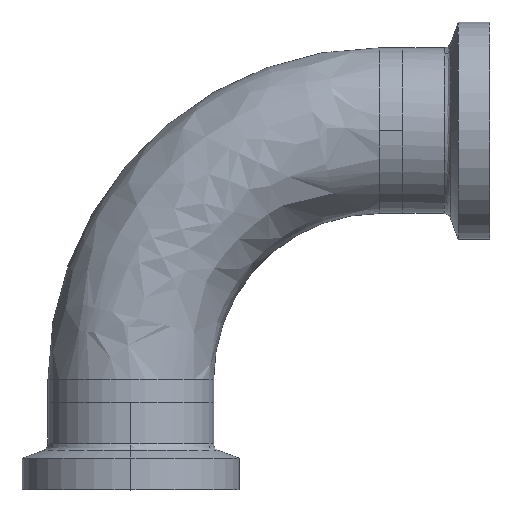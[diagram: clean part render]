
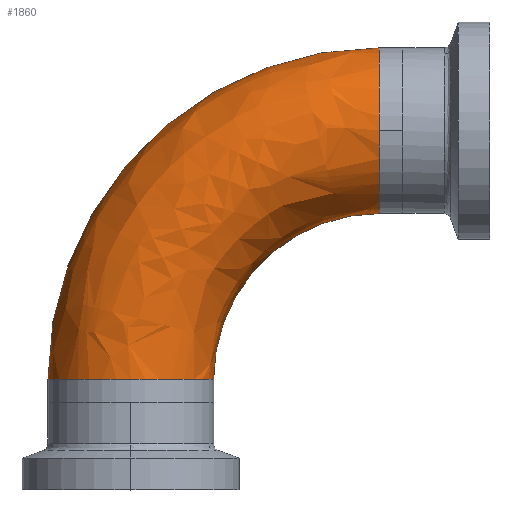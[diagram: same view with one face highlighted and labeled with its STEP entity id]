
A CAD part, top view. The second image highlights one B-rep face of the part: STEP entity #1860.
In plain terms, the highlighted free-form (B-spline) face has degree [3, 3] with [4, 4] control points.
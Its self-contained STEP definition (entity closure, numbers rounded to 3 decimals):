
#12 = CIRCLE ( 'NONE', #860, 9.525 ) ;
#23 = DIRECTION ( 'NONE',  ( 0., 0., -1. ) ) ;
#34 = DIRECTION ( 'NONE',  ( -1., 0., 0. ) ) ;
#91 = CARTESIAN_POINT ( 'NONE',  ( 17.426, 21.775, 19.05 ) ) ;
#98 =( BOUNDED_SURFACE ( )  B_SPLINE_SURFACE ( 3, 3, ( 
 ( #619, #1867, #279, #1664 ),
 ( #1495, #1562, #1534, #1508 ),
 ( #1505, #1707, #91, #701 ),
 ( #1951, #398, #889, #1364 ) ),
 .UNSPECIFIED., .F., .F., .F. ) 
 B_SPLINE_SURFACE_WITH_KNOTS ( ( 4, 4 ),
 ( 4, 4 ),
 ( 0., 1. ),
 ( 0., 1. ),
 .UNSPECIFIED. ) 
 GEOMETRIC_REPRESENTATION_ITEM ( )  RATIONAL_B_SPLINE_SURFACE ( (
 ( 1., 0.805, 0.805, 1.),
 ( 0.333, 0.268, 0.268, 0.333),
 ( 0.333, 0.268, 0.268, 0.333),
 ( 1., 0.805, 0.805, 1.) ) ) 
 REPRESENTATION_ITEM ( '' )  SURFACE ( )  );
#156 = CIRCLE ( 'NONE', #482, 38.125 ) ;
#233 = CARTESIAN_POINT ( 'NONE',  ( 28.6, 2.7, 0. ) ) ;
#279 = CARTESIAN_POINT ( 'NONE',  ( 6.267, 40.825, 0. ) ) ;
#303 = ORIENTED_EDGE ( 'NONE', *, *, #980, .T. ) ;
#398 = CARTESIAN_POINT ( 'NONE',  ( 9.525, 13.874, 0. ) ) ;
#471 = VERTEX_POINT ( 'NONE', #2014 ) ;
#475 = EDGE_CURVE ( 'NONE', #1782, #1254, #700, .T. ) ;
#482 = AXIS2_PLACEMENT_3D ( 'NONE', #233, #23, #34 ) ;
#619 = CARTESIAN_POINT ( 'NONE',  ( -9.525, 2.7, 0. ) ) ;
#659 = CARTESIAN_POINT ( 'NONE',  ( -9.525, 2.7, 0. ) ) ;
#700 = CIRCLE ( 'NONE', #1456, 9.525 ) ;
#701 = CARTESIAN_POINT ( 'NONE',  ( 28.6, 21.775, 19.05 ) ) ;
#711 = VERTEX_POINT ( 'NONE', #1302 ) ;
#765 = EDGE_LOOP ( 'NONE', ( #1553, #1762, #1457, #303, #1949 ) ) ;
#812 = EDGE_CURVE ( 'NONE', #1782, #471, #156, .T. ) ;
#860 = AXIS2_PLACEMENT_3D ( 'NONE', #903, #1764, #1755 ) ;
#889 = CARTESIAN_POINT ( 'NONE',  ( 17.426, 21.775, 0. ) ) ;
#903 = CARTESIAN_POINT ( 'NONE',  ( 28.6, 31.3, 0. ) ) ;
#980 = EDGE_CURVE ( 'NONE', #1930, #471, #1578, .T. ) ;
#1005 = CIRCLE ( 'NONE', #1769, 19.075 ) ;
#1086 = DIRECTION ( 'NONE',  ( -1., 0., 0. ) ) ;
#1121 = AXIS2_PLACEMENT_3D ( 'NONE', #1725, #1536, #1407 ) ;
#1254 = VERTEX_POINT ( 'NONE', #1912 ) ;
#1302 = CARTESIAN_POINT ( 'NONE',  ( 28.6, 21.775, 0. ) ) ;
#1339 = CARTESIAN_POINT ( 'NONE',  ( 28.6, 31.3, 9.525 ) ) ;
#1364 = CARTESIAN_POINT ( 'NONE',  ( 28.6, 21.775, 0. ) ) ;
#1404 = EDGE_CURVE ( 'NONE', #1254, #711, #1005, .T. ) ;
#1407 = DIRECTION ( 'NONE',  ( 0., 1., 0. ) ) ;
#1448 = DIRECTION ( 'NONE',  ( 0., 1., 0. ) ) ;
#1456 = AXIS2_PLACEMENT_3D ( 'NONE', #1460, #1448, #1478 ) ;
#1457 = ORIENTED_EDGE ( 'NONE', *, *, #1594, .T. ) ;
#1460 = CARTESIAN_POINT ( 'NONE',  ( 0., 2.7, 0. ) ) ;
#1478 = DIRECTION ( 'NONE',  ( -1., 0., 0. ) ) ;
#1495 = CARTESIAN_POINT ( 'NONE',  ( -9.525, 2.7, 19.05 ) ) ;
#1505 = CARTESIAN_POINT ( 'NONE',  ( 9.525, 2.7, 19.05 ) ) ;
#1508 = CARTESIAN_POINT ( 'NONE',  ( 28.6, 40.825, 19.05 ) ) ;
#1534 = CARTESIAN_POINT ( 'NONE',  ( 6.267, 40.825, 19.05 ) ) ;
#1536 = DIRECTION ( 'NONE',  ( -1., 0., 0. ) ) ;
#1553 = ORIENTED_EDGE ( 'NONE', *, *, #475, .T. ) ;
#1562 = CARTESIAN_POINT ( 'NONE',  ( -9.525, 25.033, 19.05 ) ) ;
#1578 = CIRCLE ( 'NONE', #1121, 9.525 ) ;
#1594 = EDGE_CURVE ( 'NONE', #711, #1930, #12, .T. ) ;
#1664 = CARTESIAN_POINT ( 'NONE',  ( 28.6, 40.825, 0. ) ) ;
#1707 = CARTESIAN_POINT ( 'NONE',  ( 9.525, 13.874, 19.05 ) ) ;
#1725 = CARTESIAN_POINT ( 'NONE',  ( 28.6, 31.3, 0. ) ) ;
#1755 = DIRECTION ( 'NONE',  ( 0., 1., 0. ) ) ;
#1762 = ORIENTED_EDGE ( 'NONE', *, *, #1404, .T. ) ;
#1764 = DIRECTION ( 'NONE',  ( -1., 0., 0. ) ) ;
#1769 = AXIS2_PLACEMENT_3D ( 'NONE', #2031, #1869, #1086 ) ;
#1782 = VERTEX_POINT ( 'NONE', #659 ) ;
#1860 = ADVANCED_FACE ( 'NONE', ( #1988 ), #98, .T. ) ;
#1867 = CARTESIAN_POINT ( 'NONE',  ( -9.525, 25.033, 0. ) ) ;
#1869 = DIRECTION ( 'NONE',  ( 0., 0., -1. ) ) ;
#1912 = CARTESIAN_POINT ( 'NONE',  ( 9.525, 2.7, 0. ) ) ;
#1930 = VERTEX_POINT ( 'NONE', #1339 ) ;
#1949 = ORIENTED_EDGE ( 'NONE', *, *, #812, .F. ) ;
#1951 = CARTESIAN_POINT ( 'NONE',  ( 9.525, 2.7, 0. ) ) ;
#1988 = FACE_OUTER_BOUND ( 'NONE', #765, .T. ) ;
#2014 = CARTESIAN_POINT ( 'NONE',  ( 28.6, 40.825, 0. ) ) ;
#2031 = CARTESIAN_POINT ( 'NONE',  ( 28.6, 2.7, 0. ) ) ;
